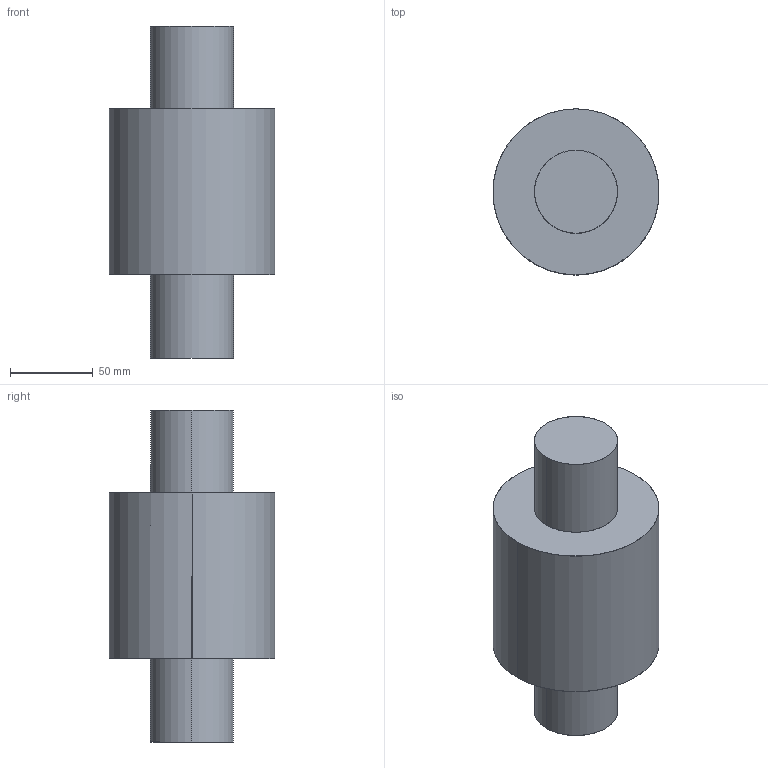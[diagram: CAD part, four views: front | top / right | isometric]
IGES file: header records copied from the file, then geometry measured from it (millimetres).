
Start section: Comment
Global section: file name: Test03.igs; native system: Parasolid(13.0); preprocessor: Pariges 4.4; author: Author; organization: Title; date: 20020627.121555; units: millimetre
Bounding box: 100 x 100 x 200 mm (x, y, z)
Surface area: 94248 mm2 (no closed solid volume)
Topology: 0 solids, 0 shells, 10 faces, 216 edges, 216 vertices
Faces by surface type: revolution 6, extrusion 4
